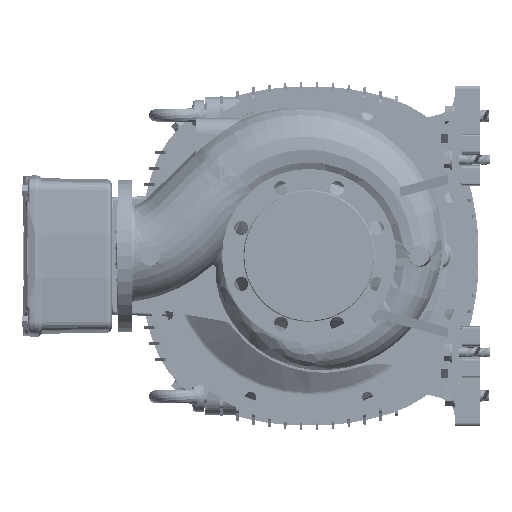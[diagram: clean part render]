
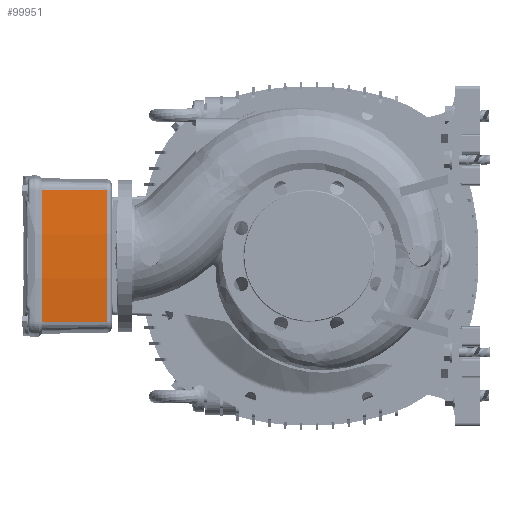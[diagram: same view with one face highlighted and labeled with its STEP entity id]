
A CAD part, left-side view. The second image highlights one B-rep face of the part: STEP entity #99951.
In plain terms, the highlighted conical face has half-angle 1 degrees and reference radius 1049 mm.
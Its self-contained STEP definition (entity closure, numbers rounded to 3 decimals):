
#2765 = VERTEX_POINT ( 'NONE', #26627 ) ;
#8219 = ORIENTED_EDGE ( 'NONE', *, *, #14645, .F. ) ;
#10484 = DIRECTION ( 'NONE',  ( 0., 1., 0. ) ) ;
#13103 = DIRECTION ( 'NONE',  ( -1., 0., 0. ) ) ;
#13654 = ORIENTED_EDGE ( 'NONE', *, *, #127821, .T. ) ;
#14645 = EDGE_CURVE ( 'NONE', #2765, #138374, #103049, .T. ) ;
#26155 = CARTESIAN_POINT ( 'NONE',  ( 0., 330.86, -896.5 ) ) ;
#26627 = CARTESIAN_POINT ( 'NONE',  ( -107.381, 437.446, 146.804 ) ) ;
#32680 = AXIS2_PLACEMENT_3D ( 'NONE', #37316, #51155, #135362 ) ;
#34019 = CIRCLE ( 'NONE', #151371, 1046.955 ) ;
#37316 = CARTESIAN_POINT ( 'NONE',  ( 0., 437.446, -896.5 ) ) ;
#40932 = CARTESIAN_POINT ( 'NONE',  ( 107.4, 448., 146.988 ) ) ;
#41976 = CARTESIAN_POINT ( 'NONE',  ( -107.19, 330.86, 144.954 ) ) ;
#46952 = CARTESIAN_POINT ( 'NONE',  ( -107.4, 448., 146.988 ) ) ;
#48797 = VERTEX_POINT ( 'NONE', #41976 ) ;
#51155 = DIRECTION ( 'NONE',  ( 0., 1., 0. ) ) ;
#57826 = FACE_OUTER_BOUND ( 'NONE', #115072, .T. ) ;
#64840 = AXIS2_PLACEMENT_3D ( 'NONE', #83195, #10484, #132214 ) ;
#73932 = EDGE_CURVE ( 'NONE', #138374, #153115, #113671, .T. ) ;
#75472 = VECTOR ( 'NONE', #112867, 1000. ) ;
#75945 = DIRECTION ( 'NONE',  ( 0., 1., 0. ) ) ;
#83092 = CONICAL_SURFACE ( 'NONE', #64840, 1049., 0.017 ) ;
#83195 = CARTESIAN_POINT ( 'NONE',  ( 0., 448., -896.5 ) ) ;
#93142 = ORIENTED_EDGE ( 'NONE', *, *, #73932, .F. ) ;
#99951 = ADVANCED_FACE ( 'NONE', ( #57826 ), #83092, .T. ) ;
#103049 = CIRCLE ( 'NONE', #32680, 1048.816 ) ;
#107393 = DIRECTION ( 'NONE',  ( 0.002, -1., -0.017 ) ) ;
#108946 = ORIENTED_EDGE ( 'NONE', *, *, #134391, .T. ) ;
#112867 = DIRECTION ( 'NONE',  ( -0.002, -1., -0.017 ) ) ;
#113671 = LINE ( 'NONE', #40932, #75472 ) ;
#114240 = CARTESIAN_POINT ( 'NONE',  ( 107.381, 437.446, 146.804 ) ) ;
#115072 = EDGE_LOOP ( 'NONE', ( #108946, #13654, #93142, #8219 ) ) ;
#127821 = EDGE_CURVE ( 'NONE', #48797, #153115, #34019, .T. ) ;
#132214 = DIRECTION ( 'NONE',  ( 1., 0., 0. ) ) ;
#132752 = LINE ( 'NONE', #46952, #147422 ) ;
#134391 = EDGE_CURVE ( 'NONE', #2765, #48797, #132752, .T. ) ;
#135362 = DIRECTION ( 'NONE',  ( -1., 0., 0. ) ) ;
#136443 = CARTESIAN_POINT ( 'NONE',  ( 107.19, 330.86, 144.954 ) ) ;
#138374 = VERTEX_POINT ( 'NONE', #114240 ) ;
#147422 = VECTOR ( 'NONE', #107393, 1000. ) ;
#151371 = AXIS2_PLACEMENT_3D ( 'NONE', #26155, #75945, #13103 ) ;
#153115 = VERTEX_POINT ( 'NONE', #136443 ) ;
